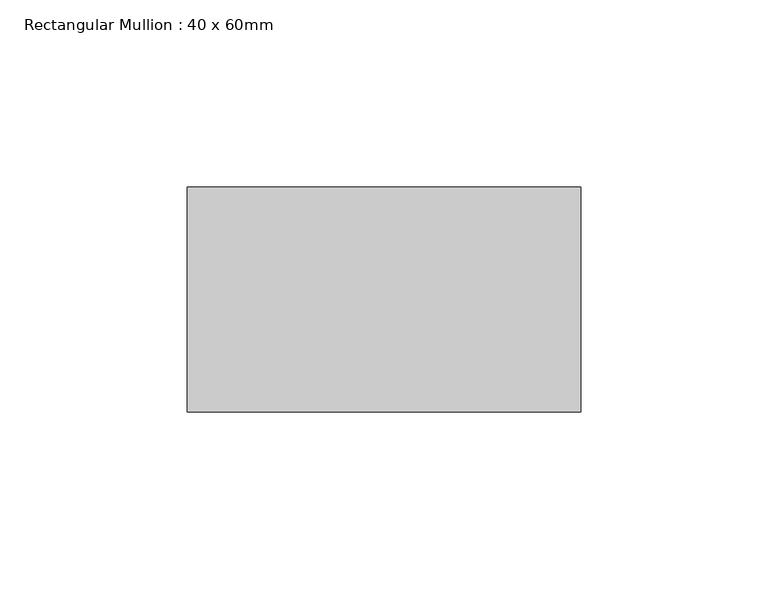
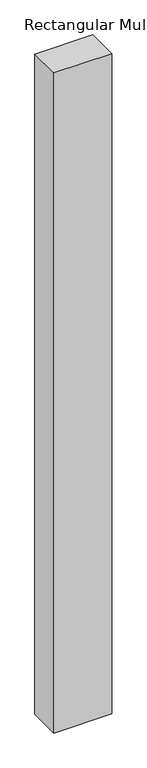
"""IFC4 building model written with IfcOpenShell, lengths in millimetres: member geometry, Rectangular Mullion : 40 x 60mm."""

import ifcopenshell
import ifcopenshell.guid

model = None  # the IFC model being written
_history = None  # IfcOwnerHistory: only IFC2X3 demands one
_inside = {}  # id of a spatial element -> (the spatial element, [elements in it])
_under = {}  # id of a project, library or spatial element -> (it, [spatial elements below it])
_declared = {}  # id of a project -> (the project, [libraries it declares])
_typed = {}  # id of a type object -> (the type object, [elements of that type])
_made_of = {}  # id of a material, layer set ... -> (it, [elements and type objects made of it])


def new_model(schema):
    """Start an empty IFC model of exactly this schema.

    Asked for "IFC4X3", IfcOpenShell would pick the latest addendum, in which some entities
    have other attributes; the version numbers below select the first issue.
    IFC2X3 requires an IfcOwnerHistory on every rooted entity: one is made here for all.
    """
    global model, _history
    if schema == "IFC4X3":
        model = ifcopenshell.file(schema_version=(4, 3, 0, 0))
    else:
        model = ifcopenshell.file(schema=schema)
    _inside.clear()
    _under.clear()
    _declared.clear()
    _typed.clear()
    _made_of.clear()
    _history = None
    if model.schema == "IFC2X3":
        org = make("IfcOrganization", Name="unknown")
        user = make(
            "IfcPersonAndOrganization",
            ThePerson=make("IfcPerson", FamilyName="unknown"),
            TheOrganization=org,
        )
        app = make(
            "IfcApplication",
            ApplicationDeveloper=org,
            Version="unknown",
            ApplicationFullName="unknown",
            ApplicationIdentifier="unknown",
        )
        _history = make(
            "IfcOwnerHistory",
            OwningUser=user,
            OwningApplication=app,
            ChangeAction="ADDED",
            CreationDate=0,
        )
    return model


def make(cls, **values):
    """One entity of the class cls with the attributes given. An attribute that is None is left unset."""
    return model.create_entity(
        cls, **{name: value for name, value in values.items() if value is not None}
    )


def rooted(cls, **values):
    """An entity with a GlobalId (a new one), such as an element, a storey or a relation."""
    return make(cls, GlobalId=ifcopenshell.guid.new(), OwnerHistory=_history, **values)


def si_unit(unit_type, name, prefix=None):
    """IfcSIUnit, for example si_unit("LENGTHUNIT", "METRE", prefix="MILLI")."""
    return make("IfcSIUnit", UnitType=unit_type, Prefix=prefix, Name=name)


def assignment(units):
    """IfcUnitAssignment: the units of a project."""
    return None if units is None else make("IfcUnitAssignment", Units=units)


def point(xyz):
    """IfcCartesianPoint."""
    return None if xyz is None else make("IfcCartesianPoint", Coordinates=xyz)


def direction(xyz):
    """IfcDirection."""
    return None if xyz is None else make("IfcDirection", DirectionRatios=xyz)


def frame(location, z_axis=None, x_axis=None):
    """IfcAxis2Placement3D, a coordinate frame: its origin and axes. An axis left out is left unset."""
    return make(
        "IfcAxis2Placement3D",
        Location=point(location),
        Axis=direction(z_axis),
        RefDirection=direction(x_axis),
    )


def origin():
    """The frame at (0, 0, 0) with its axes left unset."""
    return frame((0.0, 0.0, 0.0))


def place(relative_to, where):
    """IfcLocalPlacement: puts the frame where relative to a parent placement (None: the world)."""
    return make(
        "IfcLocalPlacement", PlacementRelTo=relative_to, RelativePlacement=where
    )


def context(
    kind, dimensions, precision=None, world=None, true_north=None, identifier=None
):
    """IfcGeometricRepresentationContext, for example the 3D "Model" context."""
    return make(
        "IfcGeometricRepresentationContext",
        ContextIdentifier=identifier,
        ContextType=kind,
        CoordinateSpaceDimension=dimensions,
        Precision=precision,
        WorldCoordinateSystem=world,
        TrueNorth=true_north,
    )


def project(units=None, contexts=None):
    """IfcProject with its units and contexts."""
    return rooted(
        "IfcProject",
        Name="project",
        RepresentationContexts=contexts,
        UnitsInContext=assignment(units),
    )


def spatial(cls, under=None, at=None, **own):
    """A site, building, storey or space (cls), placed at a placement, below another one or the project."""
    s = rooted(cls, ObjectPlacement=at, **own)
    if under is not None:
        _under.setdefault(under.id(), (under, []))[1].append(s)
    return s


def polyline(points):
    """IfcPolyline through the points."""
    return make("IfcPolyline", Points=[point(p) for p in points])


def outline(outer, holes=None, kind="AREA"):
    """IfcArbitraryClosedProfileDef: a profile drawn as a closed curve; with holes, ...WithVoids."""
    if holes is None:
        return make("IfcArbitraryClosedProfileDef", ProfileType=kind, OuterCurve=outer)
    return make(
        "IfcArbitraryProfileDefWithVoids",
        ProfileType=kind,
        OuterCurve=outer,
        InnerCurves=holes,
    )


def extrude(swept, where, along, depth):
    """IfcExtrudedAreaSolid: the profile swept, set in the frame where, extruded along a direction by depth."""
    return make(
        "IfcExtrudedAreaSolid",
        SweptArea=swept,
        Position=where,
        ExtrudedDirection=direction(along),
        Depth=depth,
    )


def shape(context_of_items, identifier, shape_type, items):
    """IfcShapeRepresentation: the items that make up one representation, for example the "Body"."""
    return make(
        "IfcShapeRepresentation",
        ContextOfItems=context_of_items,
        RepresentationIdentifier=identifier,
        RepresentationType=shape_type,
        Items=items,
    )


def source(mapping_origin, context_of_items, identifier, shape_type, items):
    """IfcRepresentationMap: a shape defined once, which mapped items show again and again."""
    return make(
        "IfcRepresentationMap",
        MappingOrigin=mapping_origin,
        MappedRepresentation=shape(context_of_items, identifier, shape_type, items),
    )


def transform(
    local_origin,
    x_axis=None,
    y_axis=None,
    z_axis=None,
    scale=None,
    scale2=None,
    scale3=None,
    uniform=True,
):
    """IfcCartesianTransformationOperator3D, or its non-uniform kind. x_axis, y_axis, z_axis: its Axis1, 2, 3."""
    if uniform:
        return make(
            "IfcCartesianTransformationOperator3D",
            Axis1=direction(x_axis),
            Axis2=direction(y_axis),
            LocalOrigin=point(local_origin),
            Scale=scale,
            Axis3=direction(z_axis),
        )
    return make(
        "IfcCartesianTransformationOperator3DnonUniform",
        Axis1=direction(x_axis),
        Axis2=direction(y_axis),
        LocalOrigin=point(local_origin),
        Scale=scale,
        Axis3=direction(z_axis),
        Scale2=scale2,
        Scale3=scale3,
    )


def mapped(mapping_source, mapping_target):
    """IfcMappedItem: shows the shape of a source again, moved by a transform."""
    return make(
        "IfcMappedItem", MappingSource=mapping_source, MappingTarget=mapping_target
    )


def made_of(thing, what):
    """Note that an element or type object is made of a material, layer set ...; save() writes the relation."""
    if what is not None:
        _made_of.setdefault(what.id(), (what, []))[1].append(thing)
    return thing


def element(
    cls,
    number,
    at=None,
    inside=None,
    cuts=None,
    type_object=None,
    material=None,
    context=None,
    identifier="Body",
    shape_type=None,
    held_by="IfcProductDefinitionShape",
    body=None,
    shapes=None,
    **own,
):
    """One element of the class cls, such as IfcWall. Its Tag is "e" and its number.

    at: its placement. inside: the storey or other place that contains it. cuts: it is an
    opening in that element (IfcRelVoidsElement). A single representation is given by context,
    identifier, shape_type and body (its items); several are given by shapes. held_by: the class
    of the entity that holds the representations. save() writes the other relations.
    """
    e = rooted(cls, Tag="e%d" % number, ObjectPlacement=at, **own)
    if body is not None:
        shapes = [shape(context, identifier, shape_type, body)]
    if shapes is not None:
        e.Representation = make(held_by, Representations=shapes)
    if inside is not None:
        _inside.setdefault(inside.id(), (inside, []))[1].append(e)
    if cuts is not None:
        rooted(
            "IfcRelVoidsElement", RelatingBuildingElement=cuts, RelatedOpeningElement=e
        )
    if type_object is not None:
        _typed.setdefault(type_object.id(), (type_object, []))[1].append(e)
    return made_of(e, material)


def aggregate(whole, parts):
    """IfcRelAggregates: a whole, such as a stair, and the parts it consists of."""
    return rooted("IfcRelAggregates", RelatingObject=whole, RelatedObjects=parts)


def save(model, path):
    """Write the relations noted so far, then the file.

    IfcRelAggregates (storeys below a building ...), IfcRelContainedInSpatialStructure (elements
    in a storey), IfcRelDefinesByType, IfcRelAssociatesMaterial and IfcRelDeclares: one each for
    every whole, place, type object, material and project.
    """
    for whole, parts in _under.values():
        aggregate(whole, parts)
    for where, things in _inside.values():
        rooted(
            "IfcRelContainedInSpatialStructure",
            RelatedElements=things,
            RelatingStructure=where,
        )
    for kind, things in _typed.values():
        rooted("IfcRelDefinesByType", RelatedObjects=things, RelatingType=kind)
    for what, things in _made_of.values():
        rooted("IfcRelAssociatesMaterial", RelatedObjects=things, RelatingMaterial=what)
    for by, libraries in _declared.values():
        rooted("IfcRelDeclares", RelatingContext=by, RelatedDefinitions=libraries)
    model.write(path)


def rectangular_mullion_40_x_60mm_64f854a8(model_context):
    return source(origin(), model_context, "Body", "SweptSolid", [
        extrude(outline(polyline([(0.0, -10.0), (0.0, -70.0), (-105.0, -70.0), (-105.0, -10.0), (0.0, -10.0)])), frame((0.0, 0.0, -1269.5325681), z_axis=(0.0, 0.0, 1.0), x_axis=(1.0, 0.0, 0.0)), (0.0, 0.0, 1.0), 1269.5325681),
    ])


if __name__ == "__main__":
    model = new_model("IFC4")
    model_context = context("Model", 3, world=origin())
    ifc_project = project(units=[si_unit("LENGTHUNIT", "METRE", prefix="MILLI")], contexts=[model_context])
    site = spatial("IfcSite", under=ifc_project)
    building = spatial("IfcBuilding", under=site)
    placement = place(None, origin())
    rectangular_mullion_40_x_60mm_shape = rectangular_mullion_40_x_60mm_64f854a8(model_context)
    element("IfcMember", 1, ObjectType="Rectangular Mullion : 40 x 60mm", at=placement, inside=building, context=model_context, shape_type="MappedRepresentation", body=[
        mapped(rectangular_mullion_40_x_60mm_shape, transform((0.0, 0.0, 0.0), x_axis=(1.0, 0.0, 0.0), y_axis=(0.0, 1.0, 0.0), z_axis=(0.0, 0.0, 1.0))),
    ])
    save(model, "model.ifc")
